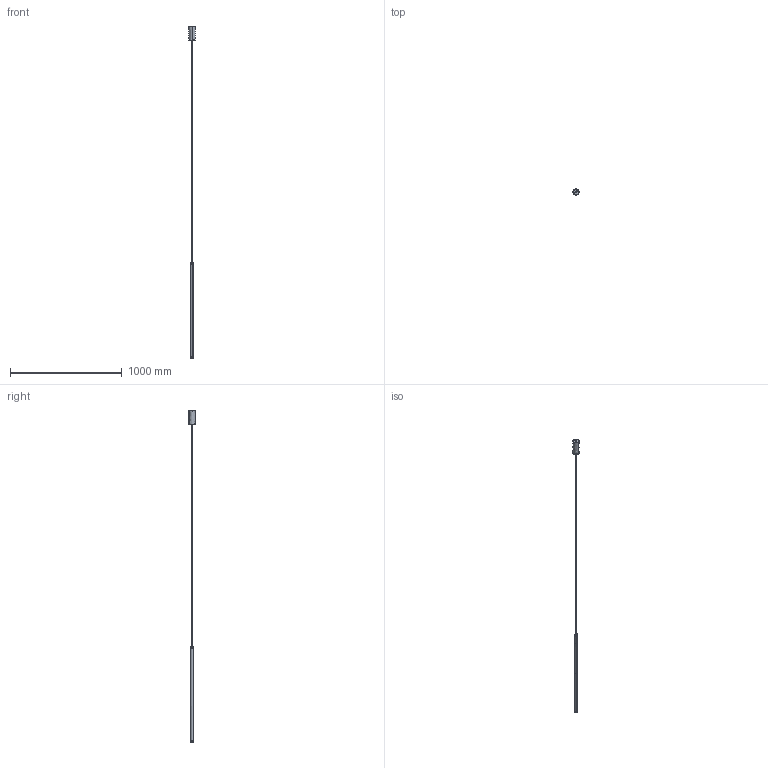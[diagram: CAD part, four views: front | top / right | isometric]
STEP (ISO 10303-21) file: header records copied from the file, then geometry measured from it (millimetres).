
FILE_DESCRIPTION(/* description */ (''),/* implementation_level */ '2;1');
FILE_NAME(/* name */ 'To-be L025__.085',/* time_stamp */ '2025-05-27T16:41:34+02:00',/* author */ (''),/* organization */ (''),/* preprocessor_version */ 'ST-DEVELOPER v16.5',/* originating_system */ '',/* authorisation */ '');
FILE_SCHEMA (('AUTOMOTIVE_DESIGN'));
Length unit declared in the file: millimetre
Products named in the file (11): Document; 3300.0250000.00 (tubo rosone ALL D 55mm sp 2)_3306.0250013.00; 3200.0075000.00 (staffa rosone ACC D 50,7mm H 126,2mm sp 1,2)_3210.00
75000.00 in opera 1; 3200.0020000.00 (staffa rosone ACC 50x44x125mm sp 1,2)_3209.0020000.0
0 in opera 1; 3200.0021000.00 (testata rosone ACC D 50,7mm sp 1,2)_3201.0021000.00; 5205.0001010.00 (raccordo fresato OTTONE D 12mm sp 3 gambo H 10mm M10
x1 Sacla 13501)_5205.0001010.00; 4504.0004000.00 (passacavo D int. 5,9mm L 10,5mm Steab 5101)_4504.000
4000.00; 3400.0080000.00 (cavo FEP+PVC 2x0,75 trasparente)_3401.0082000.00; 3300.0032000.00 (tubo ALL D 22mm sp 1,5)_3305.0032085.00; 3300.0034000.00 (testata di chiusura ALL Ø 20mm H 9mm)_3306.00340
02.00; 3100.0005000.00 (schermo circolare PC sp 0,5)_3104.0005001.00
Assembly tree (10 placements, depth 3):
  Document
    3300.0250000.00 (tubo rosone ALL D 55mm sp 2)_3306.0250013.00
    3200.0075000.00 (staffa rosone ACC D 50,7mm H 126,2mm sp 1,2)_3210.00
75000.00 in opera 1
      3200.0020000.00 (staffa rosone ACC 50x44x125mm sp 1,2)_3209.0020000.0
0 in opera 1
      3200.0021000.00 (testata rosone ACC D 50,7mm sp 1,2)_3201.0021000.00
    5205.0001010.00 (raccordo fresato OTTONE D 12mm sp 3 gambo H 10mm M10
x1 Sacla 13501)_5205.0001010.00
    4504.0004000.00 (passacavo D int. 5,9mm L 10,5mm Steab 5101)_4504.000
4000.00
    3400.0080000.00 (cavo FEP+PVC 2x0,75 trasparente)_3401.0082000.00
    3300.0032000.00 (tubo ALL D 22mm sp 1,5)_3305.0032085.00
    3300.0034000.00 (testata di chiusura ALL Ø 20mm H 9mm)_3306.00340
02.00
    3100.0005000.00 (schermo circolare PC sp 0,5)_3104.0005001.00
Bounding box: 55 x 55 x 2966.9 mm (x, y, z)
Volume: 178423 mm3; surface area: 248144.8 mm2
Topology: 11 solids, 11 shells, 460 faces, 1176 edges, 740 vertices
Faces by surface type: bspline 321, plane 139
Entity records: 42871 total; most frequent: CARTESIAN_POINT 35742, ORIENTED_EDGE 2344, EDGE_CURVE 1172, VERTEX_POINT 740, B_SPLINE_CURVE_WITH_KNOTS 623, EDGE_LOOP 510, ADVANCED_FACE 460, FACE_OUTER_BOUND 460
